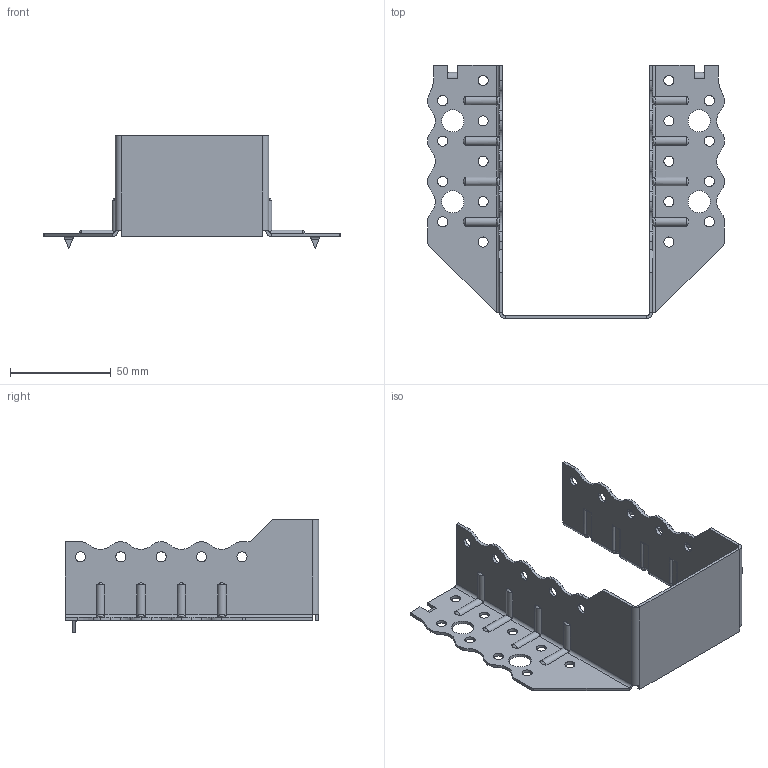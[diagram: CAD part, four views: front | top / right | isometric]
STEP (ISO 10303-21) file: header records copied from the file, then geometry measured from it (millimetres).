
FILE_DESCRIPTION (( 'STEP AP203' ), '1' );
FILE_NAME ('30612TOPK.STEP', '2021-04-08T14:31:03', ( '' ), ( '' ), 'SwSTEP 2.0', 'SolidWorks 2013', '' );
FILE_SCHEMA (( 'CONFIG_CONTROL_DESIGN' ));
Length unit declared in the file: millimetre
Products named in the file (1): 30612TOPK
Bounding box: 147 x 125.5 x 56 mm (x, y, z)
Volume: 29656 mm3; surface area: 42409.6 mm2
Topology: 1 solids, 1 shells, 357 faces, 957 edges, 602 vertices
Faces by surface type: cylinder 219, plane 106, torus 16, bspline 16
Entity records: 13124 total; most frequent: CARTESIAN_POINT 4079, ORIENTED_EDGE 1914, DIRECTION 1851, EDGE_CURVE 957, AXIS2_PLACEMENT_3D 672, VERTEX_POINT 602, LINE 507, VECTOR 507
